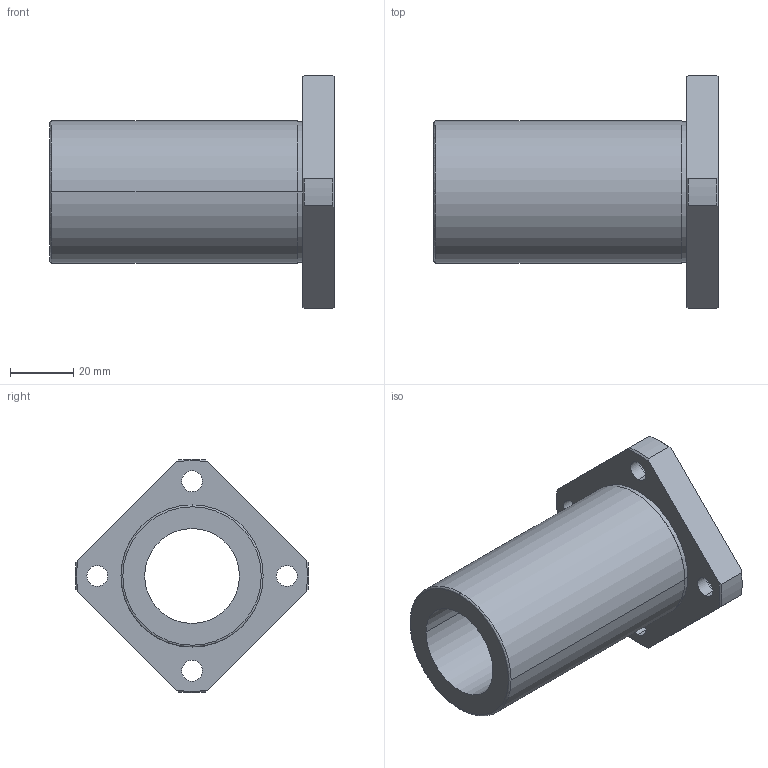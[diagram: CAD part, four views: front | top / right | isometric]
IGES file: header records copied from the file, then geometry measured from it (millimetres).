
Start section: 3D InterOp IGES (Version 21 0 1), Spatial Corp. Copyright (c) 1999-2007.
Global section: file name: NFES-30VM.igs; native system: Spatial Corp.; preprocessor: 3D InterOp GENERIC/IGES 3.0; author: Noname; organization: Noname; date: 20220204.160354; units: millimetre
Bounding box: 90 x 73.97 x 73.95 mm (x, y, z)
Surface area: 28067.5 mm2 (no closed solid volume)
Topology: 0 solids, 0 shells, 51 faces, 254 edges, 254 vertices
Faces by surface type: revolution 39, extrusion 12
